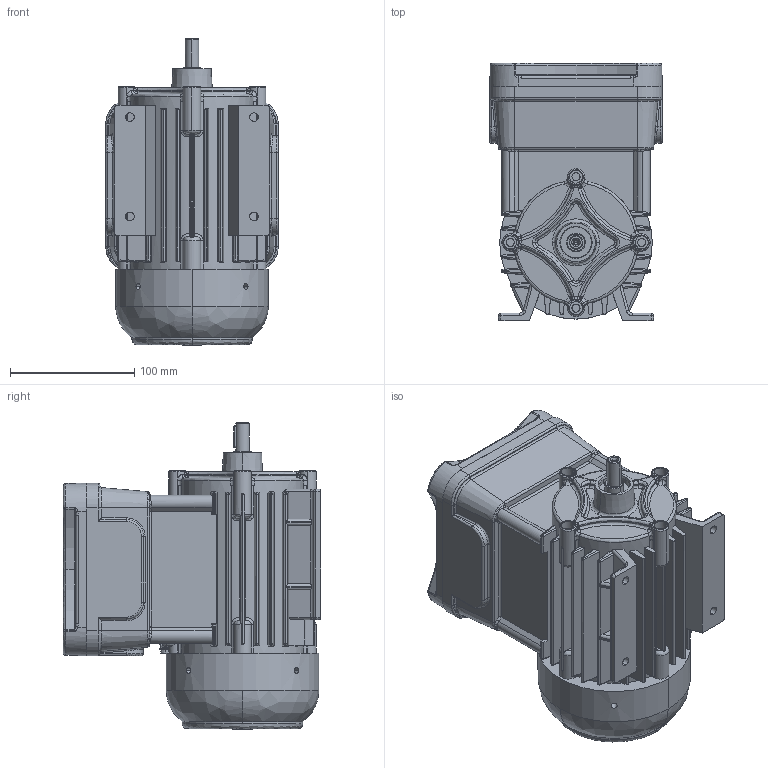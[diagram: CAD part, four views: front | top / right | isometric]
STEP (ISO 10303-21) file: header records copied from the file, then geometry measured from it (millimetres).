
FILE_DESCRIPTION (( 'STEP AP214' ), '1' );
FILE_NAME ('6RD63A2 IM1001.STEP', '2021-09-30T11:04:03', ( '' ), ( '' ), 'SwSTEP 2.0', 'SolidWorks 2018', '' );
FILE_SCHEMA (( 'AUTOMOTIVE_DESIGN' ));
Products named in the file (1): 6RD63A2 IM1001
Bounding box: 139 x 207.5 x 246.71 mm (x, y, z)
Volume: 3620497.7 mm3; surface area: 239887.2 mm2
Topology: 1 solids, 12 shells, 1162 faces, 2852 edges, 1729 vertices
Faces by surface type: cylinder 480, plane 332, bspline 280, cone 70
Entity records: 51584 total; most frequent: CARTESIAN_POINT 27099, ORIENTED_EDGE 5622, DIRECTION 4346, EDGE_CURVE 2811, VERTEX_POINT 1729, AXIS2_PLACEMENT_3D 1622, EDGE_LOOP 1230, ADVANCED_FACE 1162
